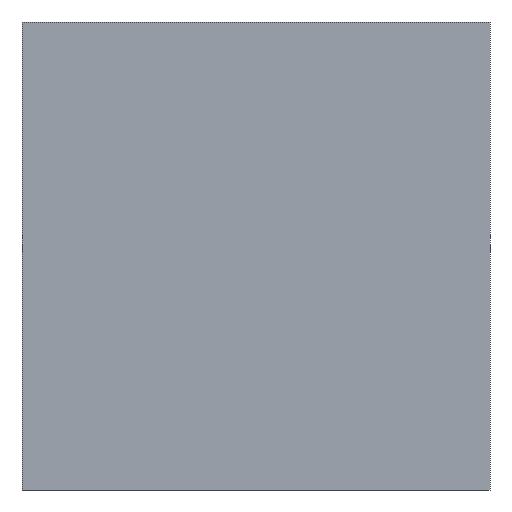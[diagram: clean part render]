
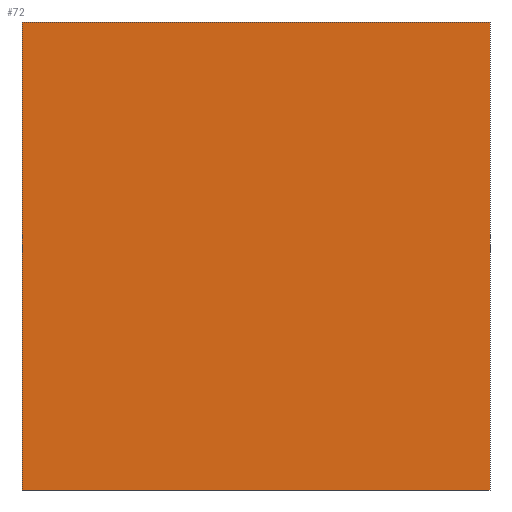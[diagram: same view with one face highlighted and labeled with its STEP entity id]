
A CAD part, left-side view. The second image highlights one B-rep face of the part: STEP entity #72.
In plain terms, the highlighted planar face has unit normal (-1, 0, 0).
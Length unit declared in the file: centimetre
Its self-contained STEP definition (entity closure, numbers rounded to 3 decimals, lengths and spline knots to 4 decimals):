
#7 = DIRECTION ( 'NONE',  ( 1., 0., 0. ) ) ;
#22 = DIRECTION ( 'NONE',  ( 0., -1., 0. ) ) ;
#23 = DIRECTION ( 'NONE',  ( 0., 0., -1. ) ) ;
#28 = AXIS2_PLACEMENT_3D ( 'NONE', #306, #7, #411 ) ;
#58 = CARTESIAN_POINT ( 'NONE',  ( 0., 1000., 1000. ) ) ;
#60 = LINE ( 'NONE', #321, #357 ) ;
#71 = VERTEX_POINT ( 'NONE', #180 ) ;
#72 = ADVANCED_FACE ( 'NONE', ( #109 ), #238, .F. ) ;
#79 = VERTEX_POINT ( 'NONE', #111 ) ;
#105 = EDGE_CURVE ( 'NONE', #79, #71, #120, .T. ) ;
#109 = FACE_OUTER_BOUND ( 'NONE', #395, .T. ) ;
#111 = CARTESIAN_POINT ( 'NONE',  ( 0., 1000., 0. ) ) ;
#120 = LINE ( 'NONE', #149, #234 ) ;
#123 = CARTESIAN_POINT ( 'NONE',  ( 0., 1000., 1000. ) ) ;
#124 = CARTESIAN_POINT ( 'NONE',  ( 0., 0., 1000. ) ) ;
#127 = DIRECTION ( 'NONE',  ( 0., -1., 0. ) ) ;
#131 = VERTEX_POINT ( 'NONE', #123 ) ;
#149 = CARTESIAN_POINT ( 'NONE',  ( 0., 1000., 0. ) ) ;
#154 = VECTOR ( 'NONE', #189, 100. ) ;
#158 = CARTESIAN_POINT ( 'NONE',  ( 0., 0., 1000. ) ) ;
#173 = VECTOR ( 'NONE', #127, 100. ) ;
#178 = ORIENTED_EDGE ( 'NONE', *, *, #324, .F. ) ;
#180 = CARTESIAN_POINT ( 'NONE',  ( 0., 0., 0. ) ) ;
#189 = DIRECTION ( 'NONE',  ( 0., 0., -1. ) ) ;
#222 = LINE ( 'NONE', #158, #154 ) ;
#234 = VECTOR ( 'NONE', #22, 100. ) ;
#238 = PLANE ( 'NONE',  #28 ) ;
#253 = LINE ( 'NONE', #58, #173 ) ;
#263 = VERTEX_POINT ( 'NONE', #124 ) ;
#290 = ORIENTED_EDGE ( 'NONE', *, *, #105, .T. ) ;
#291 = ORIENTED_EDGE ( 'NONE', *, *, #362, .F. ) ;
#306 = CARTESIAN_POINT ( 'NONE',  ( 0., 1000., 1000. ) ) ;
#319 = EDGE_CURVE ( 'NONE', #131, #79, #60, .T. ) ;
#321 = CARTESIAN_POINT ( 'NONE',  ( 0., 1000., 1000. ) ) ;
#324 = EDGE_CURVE ( 'NONE', #131, #263, #253, .T. ) ;
#340 = ORIENTED_EDGE ( 'NONE', *, *, #319, .T. ) ;
#357 = VECTOR ( 'NONE', #23, 100. ) ;
#362 = EDGE_CURVE ( 'NONE', #263, #71, #222, .T. ) ;
#395 = EDGE_LOOP ( 'NONE', ( #290, #291, #178, #340 ) ) ;
#411 = DIRECTION ( 'NONE',  ( 0., 0., -1. ) ) ;
